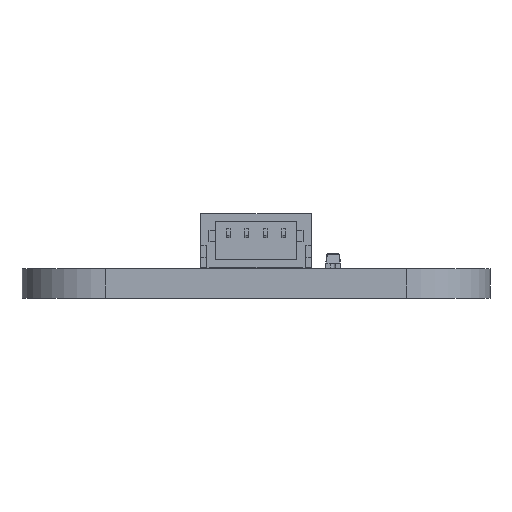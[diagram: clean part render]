
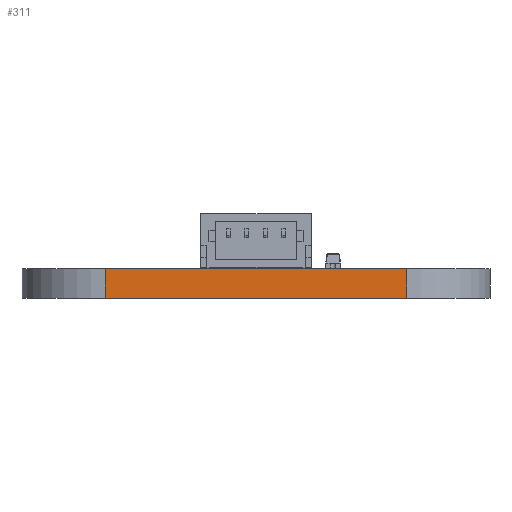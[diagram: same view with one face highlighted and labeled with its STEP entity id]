
A CAD part, left-side view. The second image highlights one B-rep face of the part: STEP entity #311.
In plain terms, the highlighted planar face has unit normal (-1, 0, 0).
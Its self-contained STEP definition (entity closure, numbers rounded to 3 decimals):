
#81 = EDGE_CURVE('',#82,#84,#86,.T.);
#82 = VERTEX_POINT('',#83);
#83 = CARTESIAN_POINT('',(0.,4.5,0.));
#84 = VERTEX_POINT('',#85);
#85 = CARTESIAN_POINT('',(0.,4.5,1.606));
#86 = LINE('',#87,#88);
#87 = CARTESIAN_POINT('',(0.,4.5,0.));
#88 = VECTOR('',#89,1.);
#89 = DIRECTION('',(0.,0.,1.));
#284 = VERTEX_POINT('',#285);
#285 = CARTESIAN_POINT('',(0.,20.86,1.606));
#292 = EDGE_CURVE('',#293,#284,#295,.T.);
#293 = VERTEX_POINT('',#294);
#294 = CARTESIAN_POINT('',(0.,20.86,0.));
#295 = LINE('',#296,#297);
#296 = CARTESIAN_POINT('',(0.,20.86,0.));
#297 = VECTOR('',#298,1.);
#298 = DIRECTION('',(0.,0.,1.));
#311 = ADVANCED_FACE('',(#312),#328,.F.);
#312 = FACE_BOUND('',#313,.F.);
#313 = EDGE_LOOP('',(#314,#315,#321,#322));
#314 = ORIENTED_EDGE('',*,*,#292,.T.);
#315 = ORIENTED_EDGE('',*,*,#316,.T.);
#316 = EDGE_CURVE('',#284,#84,#317,.T.);
#317 = LINE('',#318,#319);
#318 = CARTESIAN_POINT('',(0.,20.86,1.606));
#319 = VECTOR('',#320,1.);
#320 = DIRECTION('',(0.,-1.,0.));
#321 = ORIENTED_EDGE('',*,*,#81,.F.);
#322 = ORIENTED_EDGE('',*,*,#323,.F.);
#323 = EDGE_CURVE('',#293,#82,#324,.T.);
#324 = LINE('',#325,#326);
#325 = CARTESIAN_POINT('',(0.,20.86,0.));
#326 = VECTOR('',#327,1.);
#327 = DIRECTION('',(0.,-1.,0.));
#328 = PLANE('',#329);
#329 = AXIS2_PLACEMENT_3D('',#330,#331,#332);
#330 = CARTESIAN_POINT('',(0.,20.86,0.));
#331 = DIRECTION('',(1.,0.,-0.));
#332 = DIRECTION('',(0.,-1.,0.));
